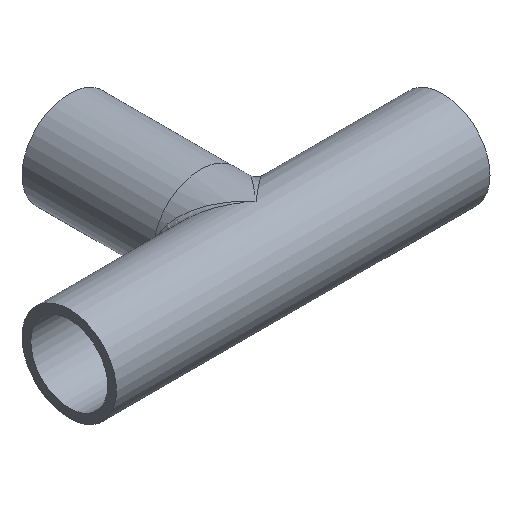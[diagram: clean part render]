
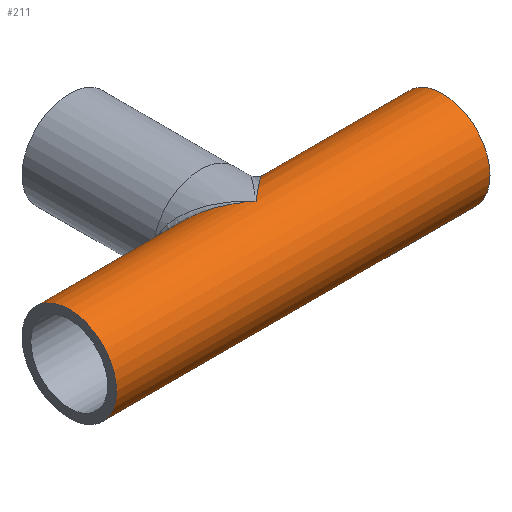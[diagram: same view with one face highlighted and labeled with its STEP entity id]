
A CAD part, isometric view. The second image highlights one B-rep face of the part: STEP entity #211.
In plain terms, the highlighted cylindrical face has radius 8.6 mm (diameter 17.2 mm), a full revolution.
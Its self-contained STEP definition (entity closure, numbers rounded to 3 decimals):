
#16=FACE_BOUND('',#75,.T.);
#17=FACE_BOUND('',#76,.T.);
#35=CIRCLE('',#240,8.6);
#36=CIRCLE('',#241,8.6);
#45=CYLINDRICAL_SURFACE('',#239,8.6);
#57=FACE_OUTER_BOUND('',#74,.T.);
#74=EDGE_LOOP('',(#159));
#75=EDGE_LOOP('',(#160,#161));
#76=EDGE_LOOP('',(#162));
#99=ELLIPSE('',#228,13.265,8.6);
#102=ELLIPSE('',#231,13.265,8.6);
#107=VERTEX_POINT('',#1022);
#108=VERTEX_POINT('',#1024);
#111=VERTEX_POINT('',#1279);
#112=VERTEX_POINT('',#1281);
#124=EDGE_CURVE('',#107,#108,#99,.T.);
#127=EDGE_CURVE('',#108,#107,#102,.T.);
#132=EDGE_CURVE('',#111,#111,#35,.T.);
#133=EDGE_CURVE('',#112,#112,#36,.T.);
#159=ORIENTED_EDGE('',*,*,#132,.T.);
#160=ORIENTED_EDGE('',*,*,#124,.F.);
#161=ORIENTED_EDGE('',*,*,#127,.F.);
#162=ORIENTED_EDGE('',*,*,#133,.F.);
#211=ADVANCED_FACE('',(#57,#16,#17),#45,.T.);
#228=AXIS2_PLACEMENT_3D('',#1025,#268,#269);
#231=AXIS2_PLACEMENT_3D('',#1269,#274,#275);
#239=AXIS2_PLACEMENT_3D('',#1278,#290,#291);
#240=AXIS2_PLACEMENT_3D('',#1280,#292,#293);
#241=AXIS2_PLACEMENT_3D('',#1282,#294,#295);
#268=DIRECTION('center_axis',(-0.648,0.761,0.));
#269=DIRECTION('ref_axis',(0.761,0.648,0.));
#274=DIRECTION('center_axis',(0.648,0.761,0.));
#275=DIRECTION('ref_axis',(-0.761,0.648,0.));
#290=DIRECTION('center_axis',(1.,0.,0.));
#291=DIRECTION('ref_axis',(0.,-1.,0.));
#292=DIRECTION('center_axis',(-1.,0.,0.));
#293=DIRECTION('ref_axis',(0.,-1.,0.));
#294=DIRECTION('center_axis',(-1.,0.,0.));
#295=DIRECTION('ref_axis',(0.,-1.,0.));
#1022=CARTESIAN_POINT('',(34.,0.,8.6));
#1024=CARTESIAN_POINT('',(34.,0.,-8.6));
#1025=CARTESIAN_POINT('Origin',(34.,0.,0.));
#1269=CARTESIAN_POINT('Origin',(34.,0.,0.));
#1278=CARTESIAN_POINT('Origin',(0.,0.,0.));
#1279=CARTESIAN_POINT('',(68.,8.6,0.));
#1280=CARTESIAN_POINT('Origin',(68.,0.,0.));
#1281=CARTESIAN_POINT('',(0.,8.6,0.));
#1282=CARTESIAN_POINT('Origin',(0.,0.,0.));
